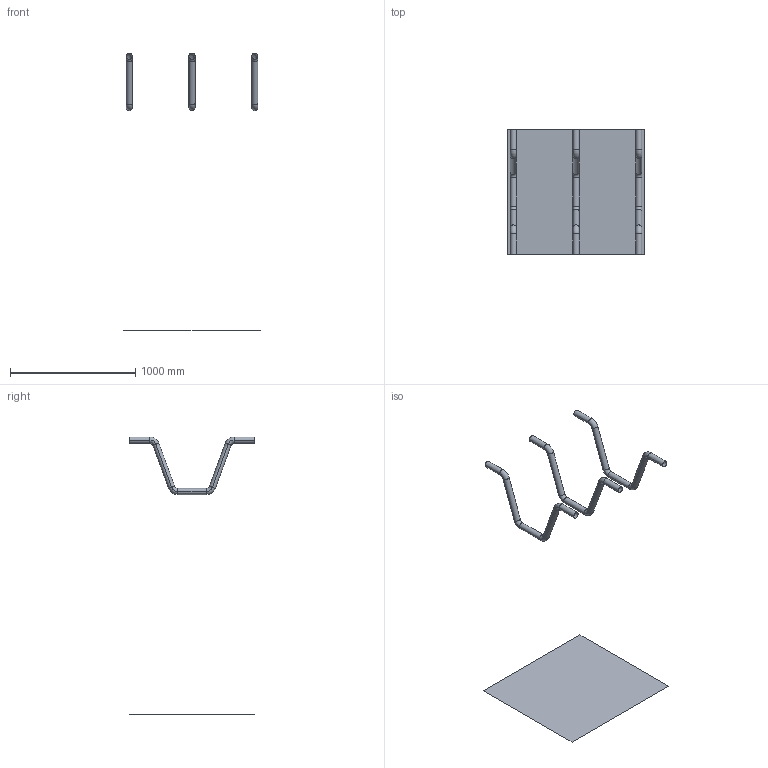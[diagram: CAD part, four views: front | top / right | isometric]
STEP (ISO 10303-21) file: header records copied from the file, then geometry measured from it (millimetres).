
FILE_DESCRIPTION(('CATIA V5 STEP Exchange'),'2;1');
FILE_NAME('C:\_Andres\UNIVERSIDAD\IQS\ASIGNATURAS\DAO\EXF\EXF-16172c\2inicio\Domeque_Sanz_Ej08_v9.stp','2017-03-05T21:54:50+00:00',('none'),('none'),'CATIA Version 5-6 Release 2014 SP1 HF18','CATIA V5 STEP AP203','none');
FILE_SCHEMA(('CONFIG_CONTROL_DESIGN'));
Length unit declared in the file: millimetre
Products named in the file (1): Domeque_Sanz_Ej08_v9
Bounding box: 1090 x 1000 x 2216 mm (x, y, z)
Surface area: 1813719.3 mm2 (no closed solid volume)
Topology: 0 solids, 4 shells, 55 faces, 118 edges, 64 vertices
Faces by surface type: cylinder 30, torus 24, plane 1
Entity records: 1283 total; most frequent: ORIENTED_EDGE 220, CARTESIAN_POINT 208, DIRECTION 168, EDGE_CURVE 118, AXIS2_PLACEMENT_3D 110, CIRCLE 84, VERTEX_POINT 64, ADVANCED_FACE 55
